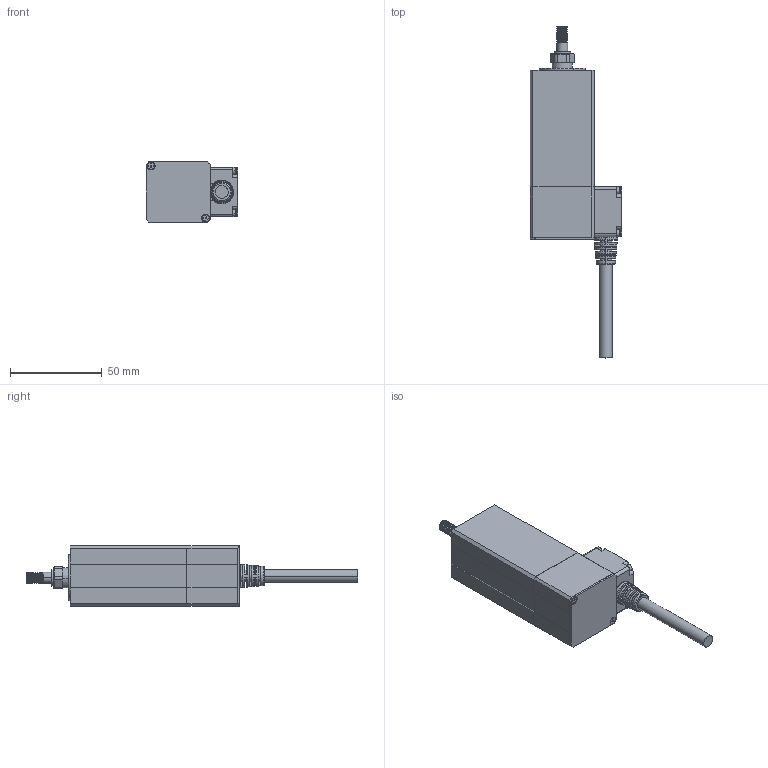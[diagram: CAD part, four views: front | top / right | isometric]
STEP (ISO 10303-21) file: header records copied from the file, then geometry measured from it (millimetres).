
FILE_DESCRIPTION (( 'STEP AP214' ), '1' );
FILE_NAME ('RCEA-3M-030-C-O-F_潠眢耀倰V1.0_20250311.STEP', '2025-03-11T06:06:21', ( '' ), ( '' ), 'SwSTEP 2.0', 'SolidWorks 2020', '' );
FILE_SCHEMA (( 'AUTOMOTIVE_DESIGN' ));
Length unit declared in the file: millimetre
Products named in the file (4): RCEA-3M-030-C-O-F_潠眢耀倰V1.0_20250311; Group2^RCEA-3M-030-C-O-F_潠眢耀倰V1.0_20250311; Group1^RCEA-3M-030-C-O-F_潠眢耀倰V1.0_20250311; Group3^RCEA-3M-030-C-O-F_潠眢耀倰V1.0_20250311
Assembly tree (3 placements, depth 2):
  RCEA-3M-030-C-O-F_潠眢耀倰V1.0_20250311
    Group1^RCEA-3M-030-C-O-F_潠眢耀倰V1.0_20250311
    Group2^RCEA-3M-030-C-O-F_潠眢耀倰V1.0_20250311
    Group3^RCEA-3M-030-C-O-F_潠眢耀倰V1.0_20250311
Bounding box: 49.85 x 180.5 x 33 mm (x, y, z)
Volume: 92429.4 mm3; surface area: 34302.9 mm2
Topology: 15 solids, 19 shells, 782 faces, 1997 edges, 1274 vertices
Faces by surface type: plane 300, cylinder 298, cone 116, bspline 37, torus 31
Entity records: 36064 total; most frequent: CARTESIAN_POINT 8511, ORIENTED_EDGE 3942, DIRECTION 3883, EDGE_CURVE 1971, AXIS2_PLACEMENT_3D 1423, VERTEX_POINT 1274, LINE 1037, VECTOR 1037
